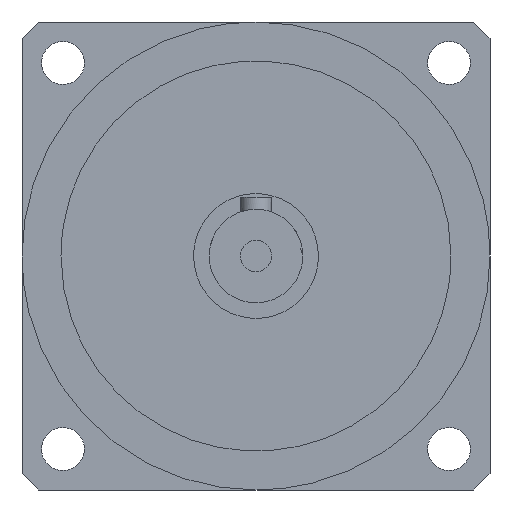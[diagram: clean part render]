
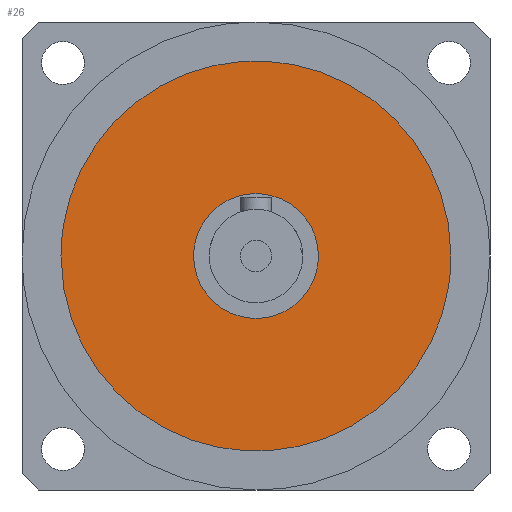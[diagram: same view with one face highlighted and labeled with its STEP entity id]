
A CAD part, front view. The second image highlights one B-rep face of the part: STEP entity #26.
In plain terms, the highlighted planar face has unit normal (0, -1, 0).
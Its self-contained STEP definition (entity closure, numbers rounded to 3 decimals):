
#26=ADVANCED_FACE('',(#100,#79),#877,.T.);
#79=FACE_BOUND('',#165,.T.);
#100=FACE_OUTER_BOUND('',#164,.T.);
#164=EDGE_LOOP('',(#270,#271));
#165=EDGE_LOOP('',(#272,#273));
#270=ORIENTED_EDGE('',*,*,#509,.T.);
#271=ORIENTED_EDGE('',*,*,#593,.T.);
#272=ORIENTED_EDGE('',*,*,#587,.F.);
#273=ORIENTED_EDGE('',*,*,#580,.F.);
#509=EDGE_CURVE('',#766,#814,#678,.T.);
#580=EDGE_CURVE('',#806,#809,#718,.T.);
#587=EDGE_CURVE('',#809,#806,#725,.T.);
#593=EDGE_CURVE('',#814,#766,#731,.T.);
#678=(
BOUNDED_CURVE()
B_SPLINE_CURVE(2,(#1722,#1723,#1724,#1725,#1726),.UNSPECIFIED.,.F.,.F.)
B_SPLINE_CURVE_WITH_KNOTS((3,2,3),(0.,39.27,78.54),
 .UNSPECIFIED.)
CURVE()
GEOMETRIC_REPRESENTATION_ITEM()
RATIONAL_B_SPLINE_CURVE((1.,0.707,1.,0.707,1.))
REPRESENTATION_ITEM('')
);
#718=(
BOUNDED_CURVE()
B_SPLINE_CURVE(2,(#1956,#1957,#1958,#1959,#1960),.UNSPECIFIED.,.F.,.F.)
B_SPLINE_CURVE_WITH_KNOTS((3,2,3),(0.,12.566,25.133),
 .UNSPECIFIED.)
CURVE()
GEOMETRIC_REPRESENTATION_ITEM()
RATIONAL_B_SPLINE_CURVE((1.,0.707,1.,0.707,1.))
REPRESENTATION_ITEM('')
);
#725=(
BOUNDED_CURVE()
B_SPLINE_CURVE(2,(#1982,#1983,#1984,#1985,#1986),.UNSPECIFIED.,.F.,.F.)
B_SPLINE_CURVE_WITH_KNOTS((3,2,3),(25.133,37.699,50.265),
 .UNSPECIFIED.)
CURVE()
GEOMETRIC_REPRESENTATION_ITEM()
RATIONAL_B_SPLINE_CURVE((1.,0.707,1.,0.707,1.))
REPRESENTATION_ITEM('')
);
#731=(
BOUNDED_CURVE()
B_SPLINE_CURVE(2,(#2006,#2007,#2008,#2009,#2010),.UNSPECIFIED.,.F.,.F.)
B_SPLINE_CURVE_WITH_KNOTS((3,2,3),(78.54,117.81,157.08),
 .UNSPECIFIED.)
CURVE()
GEOMETRIC_REPRESENTATION_ITEM()
RATIONAL_B_SPLINE_CURVE((1.,0.707,1.,0.707,1.))
REPRESENTATION_ITEM('')
);
#766=VERTEX_POINT('',#1558);
#806=VERTEX_POINT('',#1598);
#809=VERTEX_POINT('',#1601);
#814=VERTEX_POINT('',#1606);
#877=PLANE('',#918);
#918=AXIS2_PLACEMENT_3D('',#1510,#942,$);
#942=DIRECTION('',(0.,-1.,0.));
#1510=CARTESIAN_POINT('',(-25.5,-5.,-25.5));
#1558=CARTESIAN_POINT('',(25.,-5.,0.));
#1598=CARTESIAN_POINT('',(0.,-5.,8.));
#1601=CARTESIAN_POINT('',(0.,-5.,-8.));
#1606=CARTESIAN_POINT('',(-25.,-5.,0.));
#1722=CARTESIAN_POINT('',(25.,-5.,0.));
#1723=CARTESIAN_POINT('',(25.,-5.,25.));
#1724=CARTESIAN_POINT('',(0.,-5.,25.));
#1725=CARTESIAN_POINT('',(-25.,-5.,25.));
#1726=CARTESIAN_POINT('',(-25.,-5.,0.));
#1956=CARTESIAN_POINT('',(0.,-5.,8.));
#1957=CARTESIAN_POINT('',(-8.,-5.,8.));
#1958=CARTESIAN_POINT('',(-8.,-5.,0.));
#1959=CARTESIAN_POINT('',(-8.,-5.,-8.));
#1960=CARTESIAN_POINT('',(0.,-5.,-8.));
#1982=CARTESIAN_POINT('',(0.,-5.,-8.));
#1983=CARTESIAN_POINT('',(8.,-5.,-8.));
#1984=CARTESIAN_POINT('',(8.,-5.,0.));
#1985=CARTESIAN_POINT('',(8.,-5.,8.));
#1986=CARTESIAN_POINT('',(0.,-5.,8.));
#2006=CARTESIAN_POINT('',(-25.,-5.,0.));
#2007=CARTESIAN_POINT('',(-25.,-5.,-25.));
#2008=CARTESIAN_POINT('',(0.,-5.,-25.));
#2009=CARTESIAN_POINT('',(25.,-5.,-25.));
#2010=CARTESIAN_POINT('',(25.,-5.,0.));
